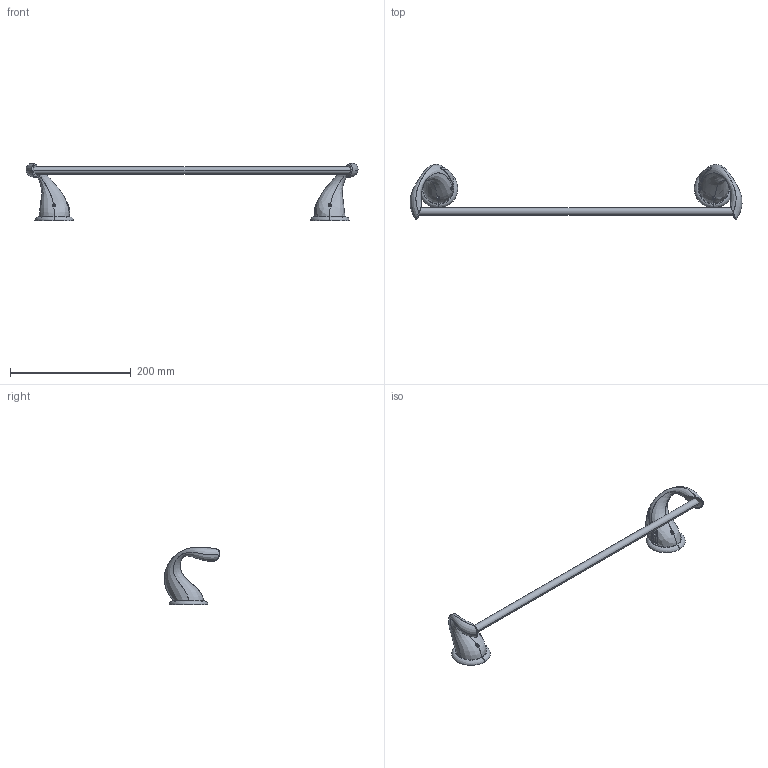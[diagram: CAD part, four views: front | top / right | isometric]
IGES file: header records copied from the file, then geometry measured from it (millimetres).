
Start section:  PTC IGES file: sku_yb7618.igs
Global section: file name: sku_yb7618.igs; native system: Pro/ENGINEER by Parametric Technology Corporation; preprocessor: 2006460; author: 9dutterb; organization: Unknown; date: 20071114.115622; units: inch
Bounding box: 550.72 x 91.7 x 95.42 mm (x, y, z)
Surface area: 63833.3 mm2 (no closed solid volume)
Topology: 0 solids, 0 shells, 52 faces, 240 edges, 240 vertices
Faces by surface type: bspline 38, revolution 12, extrusion 2
